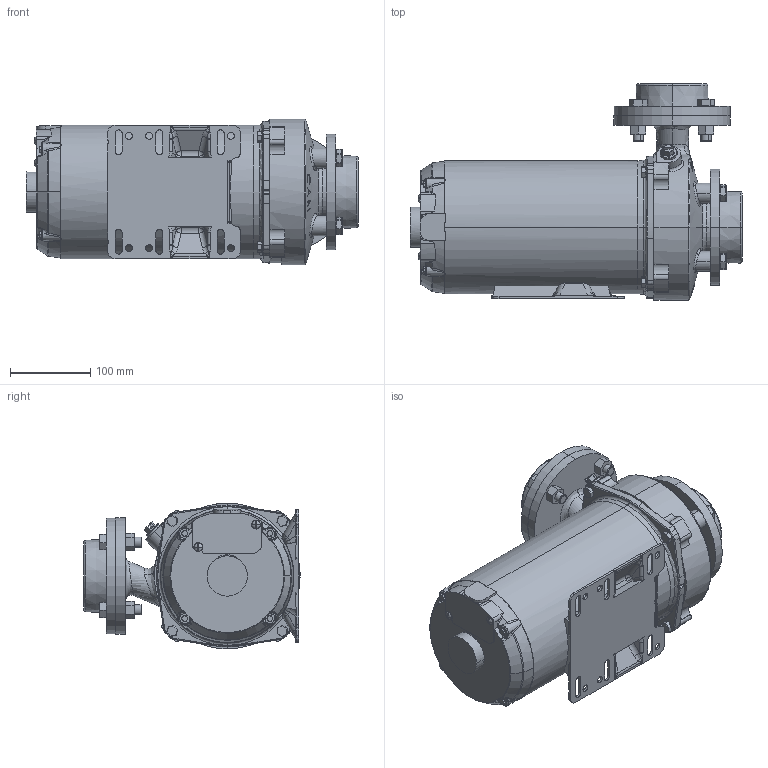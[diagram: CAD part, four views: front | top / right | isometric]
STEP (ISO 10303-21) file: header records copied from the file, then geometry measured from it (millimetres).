
FILE_DESCRIPTION (( 'STEP AP214' ), '1' );
FILE_NAME ('BOMBA CAM-W14 3 CV T 220_380V INC FLG IR3.STEP', '2026-06-08T13:24:13', ( '' ), ( '' ), 'SwSTEP 2.0', 'SolidWorks 2025', '' );
FILE_SCHEMA (( 'AUTOMOTIVE_DESIGN' ));
Length unit declared in the file: millimetre
Products named in the file (9): PARAFUSO SEXTAVADO UNC 1-2'''' x 1'''' SALT SPRAY 96h - 60700041; PORCA SEXTAVADA UNC 1-2'''' CH-3-4'''' AÇO 1020 SALT SPRAY 96h - 60700042; 14801095 - MOTOR WEG IP21 ST JJ 3,0CV T 220-380V 2P 60HZ FC165FF E56 IR3; PARAFUSO SEXTAVADO UNC 1-2'''' x 1.3-4'''' SALT SPRAY 96h - 60700603; BOMBA CAM-W14 3 CV T 220_380V INC FLG IR3; CARCA_A CAM W-14  FLG - 60351060; PLUG DE ESCORVA LATÃO 3-8'''' - 60550166; FLANGE 2.1-2'''' CAM-W16 - 60550141_60550141 para CAM W16; PARAFUSO SEXTAVADO UNC 5-16'''' X 7-8'''' SALT SPRAY 96h - 60700051
Assembly tree (21 placements, depth 2):
  BOMBA CAM-W14 3 CV T 220_380V INC FLG IR3
    14801095 - MOTOR WEG IP21 ST JJ 3,0CV T 220-380V 2P 60HZ FC165FF E56 IR3
    CARCA_A CAM W-14  FLG - 60351060
    FLANGE 2.1-2'''' CAM-W16 - 60550141_60550141 para CAM W16  x2
    PLUG DE ESCORVA LATÃO 3-8'''' - 60550166
    PARAFUSO SEXTAVADO UNC 1-2'''' x 1'''' SALT SPRAY 96h - 60700041  x4
    PARAFUSO SEXTAVADO UNC 5-16'''' X 7-8'''' SALT SPRAY 96h - 60700051  x4
    PARAFUSO SEXTAVADO UNC 1-2'''' x 1.3-4'''' SALT SPRAY 96h - 60700603  x4
    PORCA SEXTAVADA UNC 1-2'''' CH-3-4'''' AÇO 1020 SALT SPRAY 96h - 60700042  x4
Bounding box: 413.65 x 269.42 x 181.67 mm (x, y, z)
Volume: 9162214.9 mm3; surface area: 535758 mm2
Topology: 21 solids, 24 shells, 1740 faces, 4339 edges, 2594 vertices
Faces by surface type: cylinder 524, plane 524, bspline 333, cone 132, sphere 117, torus 110
Entity records: 56872 total; most frequent: CARTESIAN_POINT 26132, ORIENTED_EDGE 6908, DIRECTION 5668, EDGE_CURVE 3454, AXIS2_PLACEMENT_3D 2266, VERTEX_POINT 2166, EDGE_LOOP 1486, FACE_OUTER_BOUND 1367
